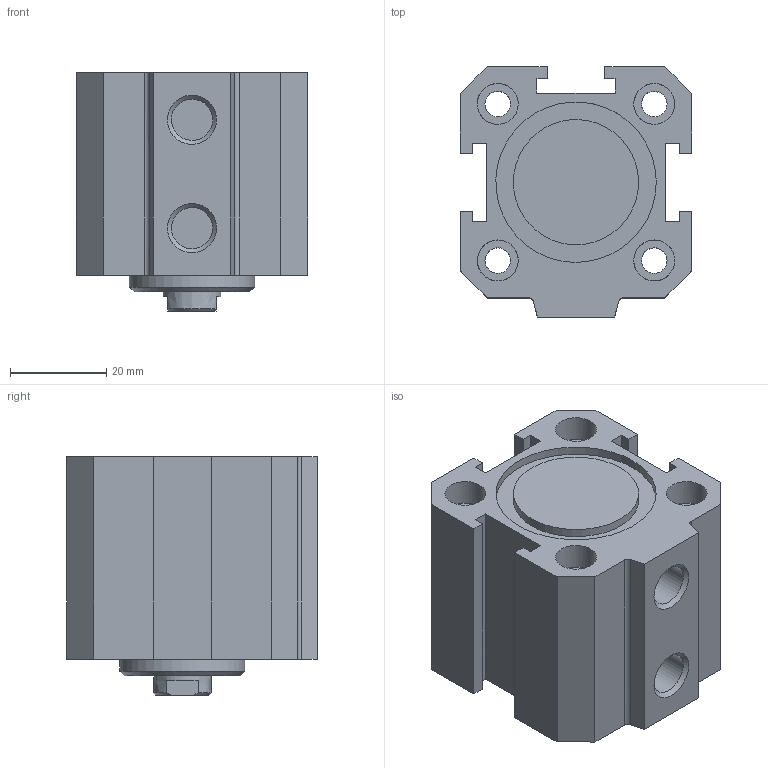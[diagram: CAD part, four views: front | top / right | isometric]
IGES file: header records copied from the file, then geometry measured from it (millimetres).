
Global section: file name: 1511_32_0005; native system: Autodesk Inventor 2014; preprocessor: unknown; author: A. Manieri; date: 20160824.113345; units: millimetre
Bounding box: 48 x 52 x 49.5 mm (x, y, z)
Volume: 78296.5 mm3; surface area: 26496.3 mm2
Topology: 2 solids, 2 shells, 93 faces, 237 edges, 166 vertices
Faces by surface type: bspline 93
